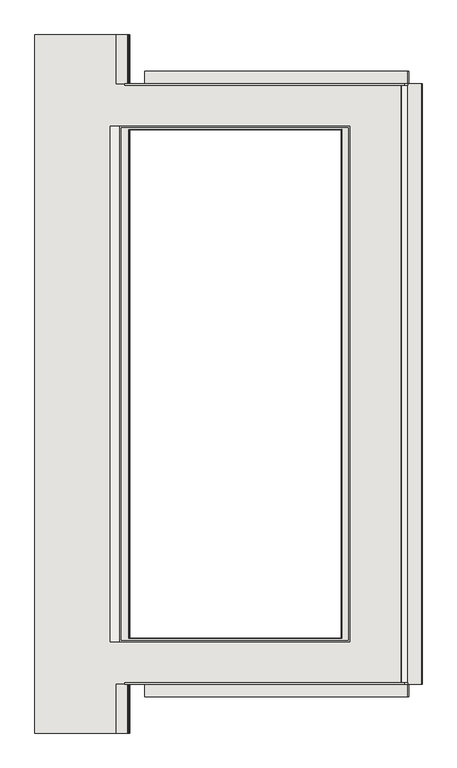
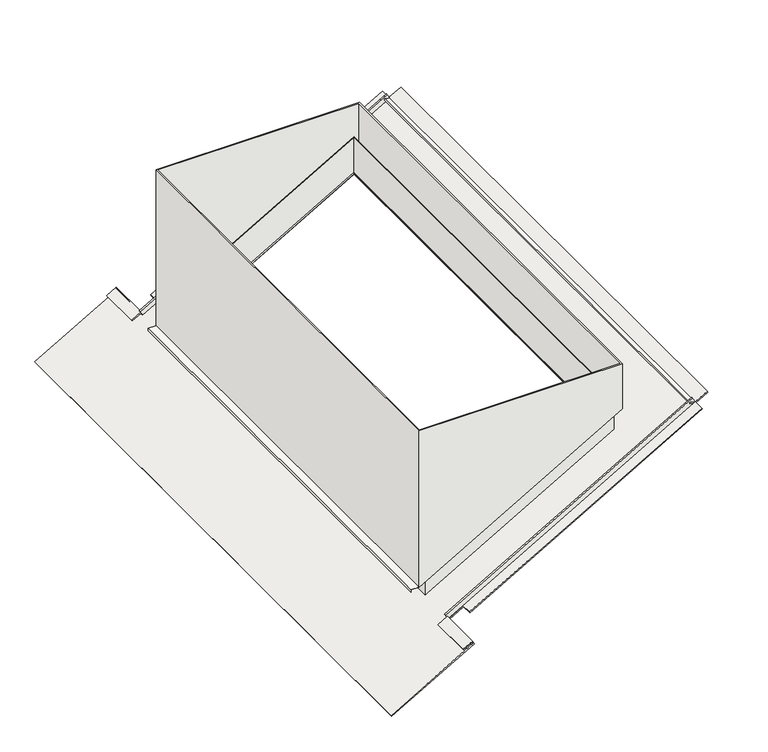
"""IFC4 building model written with IfcOpenShell, lengths in millimetres: covering geometry, DERS_420_AM_AEB_Delta Discovery Air_mountingbox-GG_M&G : mountingbox DDA-XL."""

from ifc_helpers import new_model, si_unit, frame, origin, place, context, project, spatial, polyline, outline, extrude, faceted_brep, source, transform, mapped, element, save


def covering_40b79405(model_context):
    return source(origin(), model_context, "Body", "SolidModel", [
        extrude(outline(polyline([(0.0, 0.0), (0.0, -350.0), (-157.5, -350.0), (-157.5, -410.0), (-117.5, -410.0), (-117.5, -1390.9698687), (-157.5, -1390.9698687), (-157.5, -1440.9698687), (-2097.5, -1440.9698687), (-2097.5, -1390.9698687), (-2137.5, -1390.9698687), (-2137.5, -410.0), (-2097.5, -410.0), (-2097.5, -350.0), (-2255.0, -350.0), (-2255.0, 0.0), (0.0, 0.0)]), holes=[polyline([(-1947.5, -350.0), (-1947.5, -1140.9698688), (-307.5, -1140.9698688), (-307.5, -350.0), (-1947.5, -350.0)])]), frame((-303.1088913, 1127.5, -175.0), z_axis=(-0.4999999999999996, 0.0, 0.8660254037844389), x_axis=(0.0, 1.0, 0.0)), (0.0, 0.0, 1.0), 5.0),
        faceted_brep([(0.0, 820.0, 140.8734657), (0.0, 820.0, 0.0), (684.0, 820.0, 394.9075841), (684.0, 820.0, 535.7810498), (0.0, -820.0, 140.8734657), (0.0, -820.0, 0.0), (684.0, -820.0, 535.7810498), (684.0, -820.0, 394.9075841), (685.9866683, 822.0, 536.9280533), (685.9866683, 822.0, 396.0545876), (-2.0066659, 822.0, -1.1585491), (-2.0066659, 822.0, 139.7149166), (-2.0066659, -822.0, -1.1585491), (-2.0066659, -822.0, 139.7149166), (685.9866683, -822.0, 396.0545876), (685.9866683, -822.0, 536.9280533)], [[[0, 1, 2, 3]], [[1, 0, 4, 5]], [[5, 4, 6, 7]], [[7, 6, 3, 2]], [[8, 9, 10, 11]], [[11, 10, 12, 13]], [[13, 12, 14, 15]], [[9, 8, 15, 14]], [[10, 9, 14, 12], [2, 1, 5, 7]], [[8, 11, 13, 15], [0, 3, 6, 4]]]),
        faceted_brep([(710.9866683, -833.0, 654.7703766), (710.9866683, -833.0, 479.7703766), (710.9866683, 833.0, 479.7703766), (710.9866683, 833.0, 654.7703766), (-32.0066659, 833.0, 50.8029751), (-32.0066659, 833.0, 654.7703766), (-32.0066659, -833.0, 50.8029751), (-32.0066659, -833.0, 654.7703766), (-27.0066659, -828.0, 654.7703766), (-27.0066659, -828.0, 53.6897265), (-27.0066659, 828.0, 53.6897265), (-27.0066659, 828.0, 654.7703766), (705.9866683, 828.0, 476.8836253), (705.9866683, 828.0, 654.7703766), (705.9866683, -828.0, 476.8836253), (705.9866683, -828.0, 654.7703766)], [[[0, 1, 2, 3]], [[3, 2, 4, 5]], [[5, 4, 6, 7]], [[1, 0, 7, 6]], [[8, 9, 10, 11]], [[11, 10, 12, 13]], [[13, 12, 14, 15]], [[9, 8, 15, 14]], [[2, 1, 6, 4], [10, 9, 14, 12]], [[0, 3, 5, 7], [8, 11, 13, 15]]]),
        extrude(outline(polyline([(12.9903811, -7.5), (-7.0096189, -42.1410162), (-9.6076952, -40.6410162), (8.8923048, -8.5980762), (2.830127, -5.0980762), (4.330127, -2.5), (12.9903811, -7.5)])), frame((0.0, -1127.5, 0.0), z_axis=(0.0, 1.0, 0.0), x_axis=(0.0, 0.0, 1.0)), (0.0, 0.0, 1.0), 157.5),
        extrude(outline(polyline([(12.9903811, -7.5), (-7.0096189, -42.1410162), (-9.6076952, -40.6410162), (8.8923048, -8.5980762), (2.830127, -5.0980762), (4.330127, -2.5), (12.9903811, -7.5)])), frame((0.0, 970.0, 0.0), z_axis=(0.0, 1.0, 0.0), x_axis=(0.0, 0.0, 1.0)), (0.0, 0.0, 1.0), 157.5),
        extrude(outline(polyline([(51.8029751, -62.0066659), (41.8029751, -62.0066659), (41.8029751, -61.0066659), (50.8029751, -61.0066659), (50.8029751, -32.0066659), (51.8029751, -32.0066659), (51.8029751, -62.0066659)])), frame((0.0, -833.0, 0.0), z_axis=(0.0, 1.0, 0.0), x_axis=(0.0, 0.0, 1.0)), (0.0, 0.0, 1.0), 1666.0),
        extrude(outline(polyline([(0.0, -20.0), (0.0, 0.0), (1940.0, 0.0), (1940.0, -20.0), (0.0, -20.0)])), frame((878.3937392, -970.0, 525.1618132), z_axis=(0.25881904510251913, 0.0, 0.9659258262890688), x_axis=(0.0, 1.0, 0.0)), (0.0, 0.0, 1.0), 5.0),
        extrude(outline(polyline([(0.0, -5.0), (0.0, 0.0), (1043.9698687, 0.0), (1043.9698687, -5.0), (0.0, -5.0)])), frame((899.0063509, 965.0, 524.8150614), z_axis=(-0.4999999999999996, 0.0, 0.8660254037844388), x_axis=(-0.8660254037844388, 0.0, -0.4999999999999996)), (0.0, 0.0, 1.0), 20.0),
        extrude(outline(polyline([(0.0, -5.0), (0.0, 0.0), (1043.9698687, 0.0), (1043.9698687, -5.0), (0.0, -5.0)])), frame((-5.0980762, -965.0, 2.830127), z_axis=(-0.49999999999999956, 0.0, 0.8660254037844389), x_axis=(0.8660254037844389, 0.0, 0.49999999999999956)), (0.0, 0.0, 1.0), 20.0),
    ])


if __name__ == "__main__":
    model = new_model("IFC4")
    model_context = context("Model", 3, world=origin())
    ifc_project = project(units=[si_unit("LENGTHUNIT", "METRE", prefix="MILLI")], contexts=[model_context])
    site = spatial("IfcSite", under=ifc_project)
    building = spatial("IfcBuilding", under=site)
    placement = place(None, origin())
    covering_shape = covering_40b79405(model_context)
    element("IfcCovering", 1, ObjectType="DERS_420_AM_AEB_Delta Discovery Air_mountingbox-GG_M&G : mountingbox DDA-XL", at=placement, inside=building, context=model_context, shape_type="MappedRepresentation", body=[
        mapped(covering_shape, transform((0.0, 0.0, 0.0), x_axis=(1.0, 0.0, 0.0), y_axis=(0.0, 1.0, 0.0), z_axis=(0.0, 0.0, 1.0))),
    ])
    save(model, "model.ifc")
